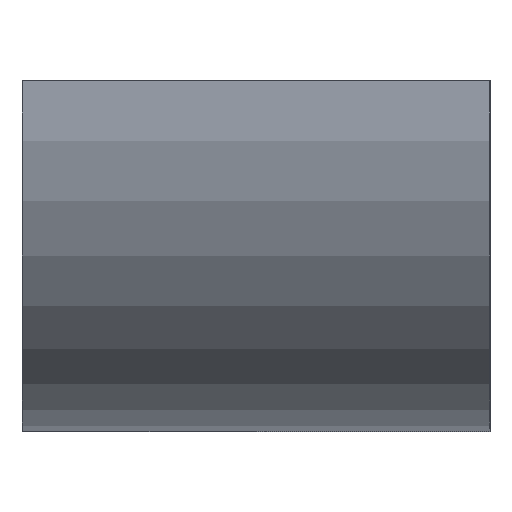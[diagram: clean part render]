
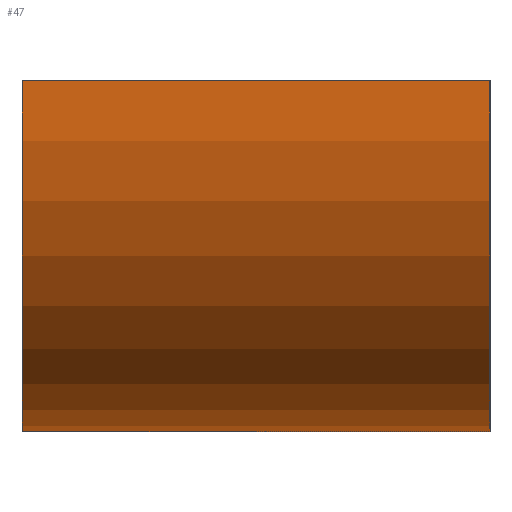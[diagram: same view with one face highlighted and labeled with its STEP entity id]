
A CAD part, left-side view. The second image highlights one B-rep face of the part: STEP entity #47.
In plain terms, the highlighted cylindrical face has radius 450 mm (diameter 900 mm), a partial arc.
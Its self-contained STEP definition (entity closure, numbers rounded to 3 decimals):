
#31 = FACE_OUTER_BOUND ( 'NONE', #503, .T. ) ;
#47 = ADVANCED_FACE ( 'NONE', ( #31 ), #487, .T. ) ;
#84 = DIRECTION ( 'NONE',  ( 0., -1., 0. ) ) ;
#91 = EDGE_CURVE ( 'NONE', #298, #564, #179, .T. ) ;
#95 = CIRCLE ( 'NONE', #110, 450. ) ;
#104 = EDGE_CURVE ( 'NONE', #298, #610, #95, .T. ) ;
#110 = AXIS2_PLACEMENT_3D ( 'NONE', #300, #84, #242 ) ;
#173 = CARTESIAN_POINT ( 'NONE',  ( 300., 0., 450. ) ) ;
#179 = LINE ( 'NONE', #392, #288 ) ;
#185 = EDGE_CURVE ( 'NONE', #564, #359, #479, .T. ) ;
#242 = DIRECTION ( 'NONE',  ( 0., 0., -1. ) ) ;
#275 = CARTESIAN_POINT ( 'NONE',  ( 300., 600., 450. ) ) ;
#278 = EDGE_CURVE ( 'NONE', #610, #359, #465, .T. ) ;
#288 = VECTOR ( 'NONE', #338, 1000. ) ;
#298 = VERTEX_POINT ( 'NONE', #628 ) ;
#300 = CARTESIAN_POINT ( 'NONE',  ( 300., 600., 0. ) ) ;
#327 = CARTESIAN_POINT ( 'NONE',  ( 300., 600., 450. ) ) ;
#338 = DIRECTION ( 'NONE',  ( 0., -1., 0. ) ) ;
#343 = DIRECTION ( 'NONE',  ( 0., -1., 0. ) ) ;
#349 = VECTOR ( 'NONE', #425, 1000. ) ;
#351 = ORIENTED_EDGE ( 'NONE', *, *, #185, .F. ) ;
#359 = VERTEX_POINT ( 'NONE', #173 ) ;
#361 = CARTESIAN_POINT ( 'NONE',  ( 300., 0., 0. ) ) ;
#375 = ORIENTED_EDGE ( 'NONE', *, *, #104, .T. ) ;
#379 = CARTESIAN_POINT ( 'NONE',  ( 750., 0., 0. ) ) ;
#387 = DIRECTION ( 'NONE',  ( 0., 0., 1. ) ) ;
#392 = CARTESIAN_POINT ( 'NONE',  ( 750., 600., 0. ) ) ;
#422 = AXIS2_PLACEMENT_3D ( 'NONE', #643, #343, #387 ) ;
#425 = DIRECTION ( 'NONE',  ( 0., -1., 0. ) ) ;
#456 = DIRECTION ( 'NONE',  ( 0., -1., 0. ) ) ;
#465 = LINE ( 'NONE', #275, #349 ) ;
#479 = CIRCLE ( 'NONE', #603, 450. ) ;
#487 = CYLINDRICAL_SURFACE ( 'NONE', #422, 450. ) ;
#496 = DIRECTION ( 'NONE',  ( 0., 0., -1. ) ) ;
#503 = EDGE_LOOP ( 'NONE', ( #351, #599, #375, #572 ) ) ;
#564 = VERTEX_POINT ( 'NONE', #379 ) ;
#572 = ORIENTED_EDGE ( 'NONE', *, *, #278, .T. ) ;
#599 = ORIENTED_EDGE ( 'NONE', *, *, #91, .F. ) ;
#603 = AXIS2_PLACEMENT_3D ( 'NONE', #361, #456, #496 ) ;
#610 = VERTEX_POINT ( 'NONE', #327 ) ;
#628 = CARTESIAN_POINT ( 'NONE',  ( 750., 600., 0. ) ) ;
#643 = CARTESIAN_POINT ( 'NONE',  ( 300., 600., 0. ) ) ;
